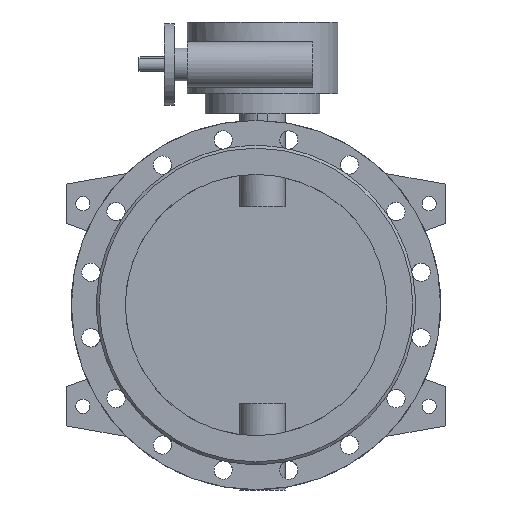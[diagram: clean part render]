
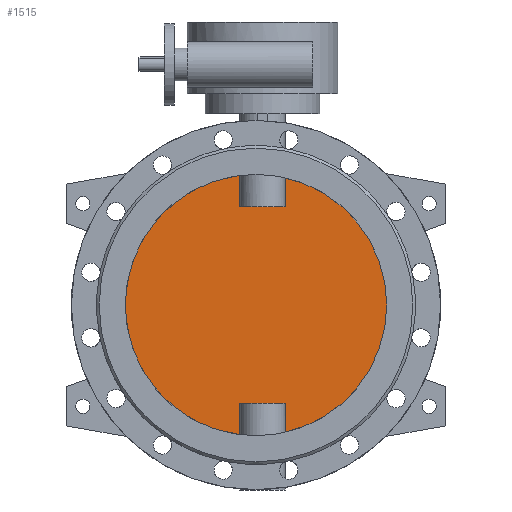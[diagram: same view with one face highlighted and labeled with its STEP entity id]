
A CAD part, front view. The second image highlights one B-rep face of the part: STEP entity #1515.
In plain terms, the highlighted planar face has unit normal (0, -1, 0).
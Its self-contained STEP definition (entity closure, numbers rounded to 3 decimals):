
#1515=ADVANCED_FACE('',(#3067),#3069,.F.);
#3067=FACE_BOUND('',#3068,.T.);
#3068=EDGE_LOOP('',(#4100,#4101,#4102,#4103,#4104,#4105,#4106,#4107));
#3069=PLANE('',#3070);
#3070=AXIS2_PLACEMENT_3D('',#3071,#3072,#3073);
#3071=CARTESIAN_POINT('',(0.,-5.,0.));
#3072=DIRECTION('',(0.,1.,0.));
#3073=DIRECTION('',(1.,0.,0.));
#4100=ORIENTED_EDGE('',*,*,#4612,.T.);
#4101=ORIENTED_EDGE('',*,*,#4622,.T.);
#4102=ORIENTED_EDGE('',*,*,#4623,.T.);
#4103=ORIENTED_EDGE('',*,*,#4624,.T.);
#4104=ORIENTED_EDGE('',*,*,#4614,.T.);
#4105=ORIENTED_EDGE('',*,*,#4625,.T.);
#4106=ORIENTED_EDGE('',*,*,#4626,.T.);
#4107=ORIENTED_EDGE('',*,*,#4627,.T.);
#4612=EDGE_CURVE('',#5439,#5440,#5441,.F.);
#4614=EDGE_CURVE('',#5444,#5442,#5445,.F.);
#4622=EDGE_CURVE('',#5440,#5459,#5460,.T.);
#4623=EDGE_CURVE('',#5459,#5461,#5462,.F.);
#4624=EDGE_CURVE('',#5461,#5444,#5463,.F.);
#4625=EDGE_CURVE('',#5442,#5464,#5465,.F.);
#4626=EDGE_CURVE('',#5464,#5466,#5467,.F.);
#4627=EDGE_CURVE('',#5466,#5439,#5468,.T.);
#5439=VERTEX_POINT('',#9527);
#5440=VERTEX_POINT('',#9528);
#5441=CIRCLE('',#9529,200.);
#5442=VERTEX_POINT('',#9533);
#5444=VERTEX_POINT('',#9596);
#5445=CIRCLE('',#9597,200.);
#5459=VERTEX_POINT('',#9744);
#5460=LINE('',#9745,#9746);
#5461=VERTEX_POINT('',#9748);
#5462=LINE('',#9749,#9750);
#5463=LINE('',#9752,#9753);
#5464=VERTEX_POINT('',#9755);
#5465=LINE('',#9756,#9757);
#5466=VERTEX_POINT('',#9759);
#5467=LINE('',#9760,#9761);
#5468=LINE('',#9763,#9764);
#9527=CARTESIAN_POINT('',(44.641,-5.,-194.954));
#9528=CARTESIAN_POINT('',(44.641,-5.,194.954));
#9529=AXIS2_PLACEMENT_3D('',#9530,#9531,#9532);
#9530=CARTESIAN_POINT('',(0.,-5.,0.));
#9531=DIRECTION('',(0.,1.,0.));
#9532=DIRECTION('',(0.223,0.,0.975));
#9533=CARTESIAN_POINT('',(-24.641,-5.,-198.476));
#9596=CARTESIAN_POINT('',(-24.641,-5.,198.476));
#9597=AXIS2_PLACEMENT_3D('',#9598,#9599,#9600);
#9598=CARTESIAN_POINT('',(0.,-5.,0.));
#9599=DIRECTION('',(0.,1.,0.));
#9600=DIRECTION('',(-0.123,0.,-0.992));
#9744=CARTESIAN_POINT('',(44.641,-5.,150.));
#9745=CARTESIAN_POINT('',(44.641,-5.,194.954));
#9746=VECTOR('',#9747,1.);
#9747=DIRECTION('',(0.,0.,-1.));
#9748=CARTESIAN_POINT('',(-24.641,-5.,150.));
#9749=CARTESIAN_POINT('',(-24.641,-5.,150.));
#9750=VECTOR('',#9751,1.);
#9751=DIRECTION('',(1.,0.,0.));
#9752=CARTESIAN_POINT('',(-24.641,-5.,198.476));
#9753=VECTOR('',#9754,1.);
#9754=DIRECTION('',(0.,0.,-1.));
#9755=CARTESIAN_POINT('',(-24.641,-5.,-150.));
#9756=CARTESIAN_POINT('',(-24.641,-5.,-150.));
#9757=VECTOR('',#9758,1.);
#9758=DIRECTION('',(0.,0.,-1.));
#9759=CARTESIAN_POINT('',(44.641,-5.,-150.));
#9760=CARTESIAN_POINT('',(44.641,-5.,-150.));
#9761=VECTOR('',#9762,1.);
#9762=DIRECTION('',(-1.,0.,0.));
#9763=CARTESIAN_POINT('',(44.641,-5.,-150.));
#9764=VECTOR('',#9765,1.);
#9765=DIRECTION('',(0.,0.,-1.));
